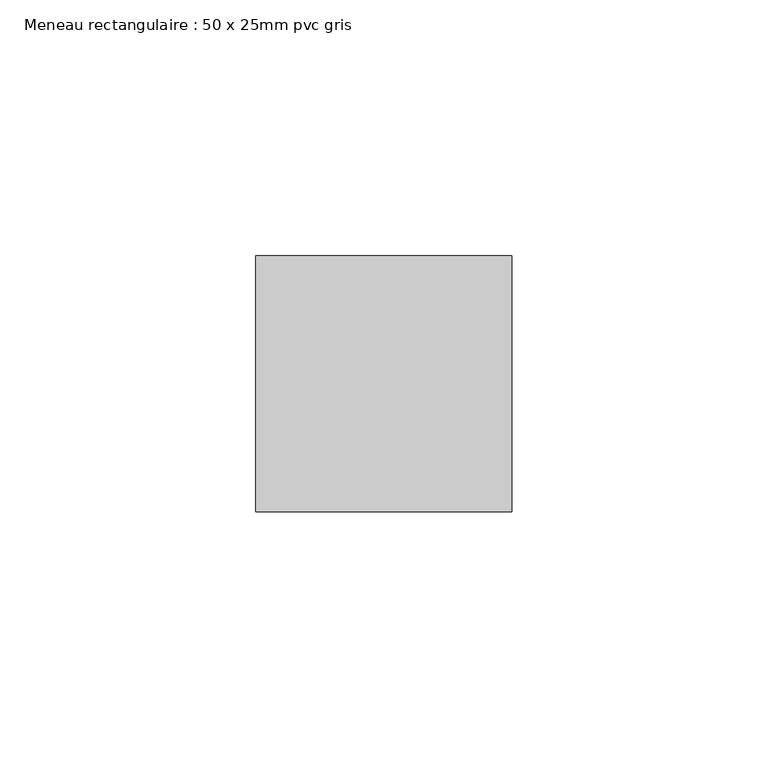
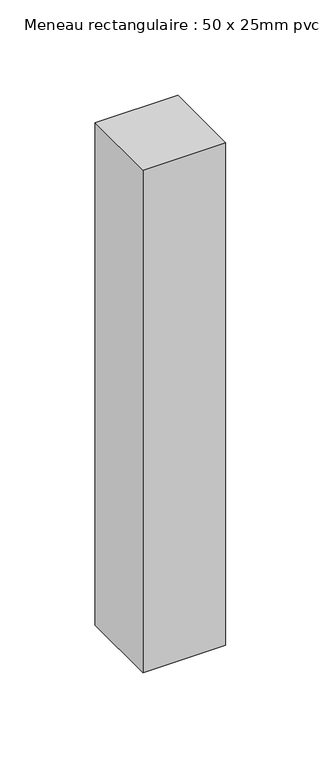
"""IFC4 building model written with IfcOpenShell, lengths in millimetres: member geometry, Meneau rectangulaire : 50 x 25mm pvc gris."""

from ifc_helpers import new_model, si_unit, frame, origin, place, context, project, spatial, polyline, outline, extrude, source, transform, mapped, element, save


def meneau_rectangulaire_50_x_25mm_pvc_gris_b3363a86(model_context):
    return source(origin(), model_context, "Body", "SweptSolid", [
        extrude(outline(polyline([(0.0, 0.0), (0.0, -50.0), (-50.0, -50.0), (-50.0, 0.0), (0.0, 0.0)])), frame((0.0, 0.0, -321.0), z_axis=(0.0, 0.0, 1.0), x_axis=(1.0, 0.0, 0.0)), (0.0, 0.0, 1.0), 321.0),
    ])


if __name__ == "__main__":
    model = new_model("IFC4")
    model_context = context("Model", 3, world=origin())
    ifc_project = project(units=[si_unit("LENGTHUNIT", "METRE", prefix="MILLI")], contexts=[model_context])
    site = spatial("IfcSite", under=ifc_project)
    building = spatial("IfcBuilding", under=site)
    placement = place(None, origin())
    meneau_rectangulaire_50_x_25mm_pvc_gris_shape = meneau_rectangulaire_50_x_25mm_pvc_gris_b3363a86(model_context)
    element("IfcMember", 1, ObjectType="Meneau rectangulaire : 50 x 25mm pvc gris", at=placement, inside=building, context=model_context, shape_type="MappedRepresentation", body=[
        mapped(meneau_rectangulaire_50_x_25mm_pvc_gris_shape, transform((0.0, 0.0, 0.0), x_axis=(1.0, 0.0, 0.0), y_axis=(0.0, 1.0, 0.0), z_axis=(0.0, 0.0, 1.0))),
    ])
    save(model, "model.ifc")
